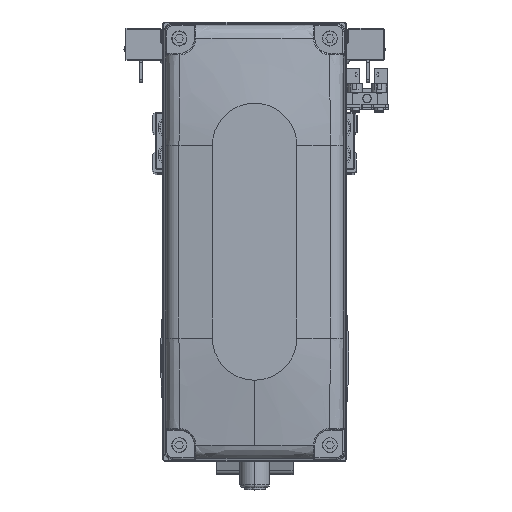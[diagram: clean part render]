
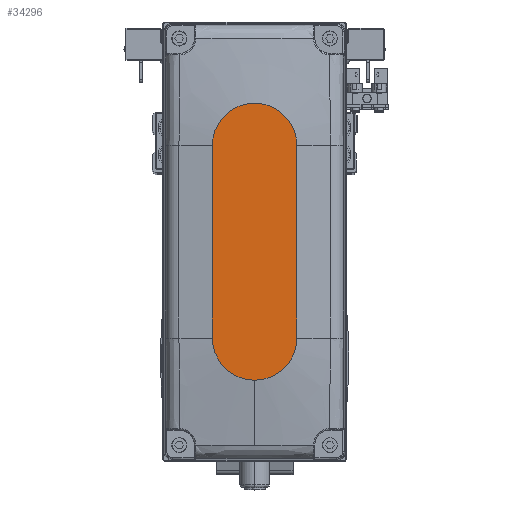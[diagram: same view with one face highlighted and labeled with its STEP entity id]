
A CAD part, top view. The second image highlights one B-rep face of the part: STEP entity #34296.
In plain terms, the highlighted planar face has unit normal (0, 0, 1).
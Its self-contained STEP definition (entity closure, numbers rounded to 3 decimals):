
#375 = CARTESIAN_POINT ( 'NONE',  ( 32., 0., 35. ) ) ;
#1187 = DIRECTION ( 'NONE',  ( 1., 0., 0. ) ) ;
#3240 = AXIS2_PLACEMENT_3D ( 'NONE', #42257, #11409, #25140 ) ;
#3656 = CARTESIAN_POINT ( 'NONE',  ( 32., -14., 35. ) ) ;
#4033 = EDGE_CURVE ( 'NONE', #14798, #38256, #8871, .T. ) ;
#4929 = EDGE_CURVE ( 'NONE', #43142, #16937, #37425, .T. ) ;
#5229 = ORIENTED_EDGE ( 'NONE', *, *, #4929, .T. ) ;
#6559 = CARTESIAN_POINT ( 'NONE',  ( -32., 14., 35. ) ) ;
#6785 = DIRECTION ( 'NONE',  ( 0., 0., 1. ) ) ;
#8871 = LINE ( 'NONE', #22611, #20317 ) ;
#10156 = FACE_OUTER_BOUND ( 'NONE', #31271, .T. ) ;
#10861 = AXIS2_PLACEMENT_3D ( 'NONE', #37646, #6785, #20528 ) ;
#11222 = EDGE_CURVE ( 'NONE', #38256, #29957, #36224, .T. ) ;
#11409 = DIRECTION ( 'NONE',  ( 0., 0., 1. ) ) ;
#12681 = CARTESIAN_POINT ( 'NONE',  ( 46., 0., 35. ) ) ;
#13005 = CIRCLE ( 'NONE', #38189, 14. ) ;
#14105 = DIRECTION ( 'NONE',  ( 0., 0., 1. ) ) ;
#14798 = VERTEX_POINT ( 'NONE', #30385 ) ;
#15850 = ORIENTED_EDGE ( 'NONE', *, *, #11222, .T. ) ;
#16800 = AXIS2_PLACEMENT_3D ( 'NONE', #18315, #32039, #1187 ) ;
#16937 = VERTEX_POINT ( 'NONE', #39381 ) ;
#18315 = CARTESIAN_POINT ( 'NONE',  ( 32., 0., 35. ) ) ;
#20168 = ORIENTED_EDGE ( 'NONE', *, *, #28043, .T. ) ;
#20311 = DIRECTION ( 'NONE',  ( -1., 0., 0. ) ) ;
#20317 = VECTOR ( 'NONE', #36363, 1000. ) ;
#20528 = DIRECTION ( 'NONE',  ( 1., 0., 0. ) ) ;
#22285 = ORIENTED_EDGE ( 'NONE', *, *, #4033, .T. ) ;
#22611 = CARTESIAN_POINT ( 'NONE',  ( -32., -14., 35. ) ) ;
#22658 = CIRCLE ( 'NONE', #3240, 14. ) ;
#23898 = PLANE ( 'NONE',  #10861 ) ;
#25140 = DIRECTION ( 'NONE',  ( 1., 0., 0. ) ) ;
#27849 = DIRECTION ( 'NONE',  ( 1., 0., 0. ) ) ;
#28043 = EDGE_CURVE ( 'NONE', #29957, #43142, #13005, .T. ) ;
#29493 = CARTESIAN_POINT ( 'NONE',  ( 32., 14., 35. ) ) ;
#29957 = VERTEX_POINT ( 'NONE', #12681 ) ;
#30385 = CARTESIAN_POINT ( 'NONE',  ( -32., -14., 35. ) ) ;
#31271 = EDGE_LOOP ( 'NONE', ( #5229, #33656, #22285, #15850, #20168 ) ) ;
#31902 = VECTOR ( 'NONE', #20311, 1000. ) ;
#32039 = DIRECTION ( 'NONE',  ( 0., 0., 1. ) ) ;
#33656 = ORIENTED_EDGE ( 'NONE', *, *, #38770, .T. ) ;
#34296 = ADVANCED_FACE ( 'NONE', ( #10156 ), #23898, .T. ) ;
#36224 = CIRCLE ( 'NONE', #16800, 14. ) ;
#36363 = DIRECTION ( 'NONE',  ( 1., 0., 0. ) ) ;
#37425 = LINE ( 'NONE', #6559, #31902 ) ;
#37646 = CARTESIAN_POINT ( 'NONE',  ( 0., 0., 35. ) ) ;
#38189 = AXIS2_PLACEMENT_3D ( 'NONE', #375, #14105, #27849 ) ;
#38256 = VERTEX_POINT ( 'NONE', #3656 ) ;
#38770 = EDGE_CURVE ( 'NONE', #16937, #14798, #22658, .T. ) ;
#39381 = CARTESIAN_POINT ( 'NONE',  ( -32., 14., 35. ) ) ;
#42257 = CARTESIAN_POINT ( 'NONE',  ( -32., 0., 35. ) ) ;
#43142 = VERTEX_POINT ( 'NONE', #29493 ) ;
